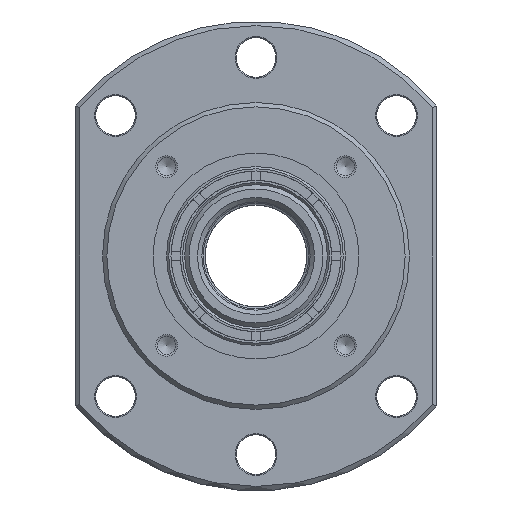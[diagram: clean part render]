
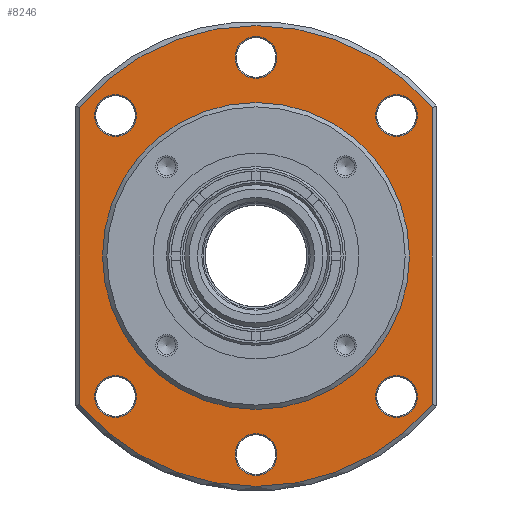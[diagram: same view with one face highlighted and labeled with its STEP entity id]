
A CAD part, left-side view. The second image highlights one B-rep face of the part: STEP entity #8246.
In plain terms, the highlighted planar face has unit normal (-1, 0, 0).
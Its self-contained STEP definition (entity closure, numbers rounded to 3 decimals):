
#4680=EDGE_CURVE('',#11807,#11807,#11808,.T.);
#5052=EDGE_CURVE('',#10294,#12387,#12388,.T.);
#5178=EDGE_CURVE('',#12583,#12583,#12584,.T.);
#5498=EDGE_CURVE('',#11645,#13074,#13075,.T.);
#5736=EDGE_CURVE('',#10294,#13074,#13451,.T.);
#6172=EDGE_CURVE('',#11645,#12387,#14100,.T.);
#7116=EDGE_CURVE('',#15488,#15488,#15489,.T.);
#7228=EDGE_CURVE('',#15667,#15667,#15668,.T.);
#8214=EDGE_CURVE('',#17076,#17076,#17077,.T.);
#8232=EDGE_CURVE('',#17101,#17101,#17102,.T.);
#8246=ADVANCED_FACE('',(#17118,#17119,#17120,#17121,#17122,#17123,#17124,#17125),#17126,.T.);
#8294=EDGE_CURVE('',#17187,#17187,#17188,.T.);
#10294=VERTEX_POINT('',#20305);
#11645=VERTEX_POINT('',#22743);
#11807=VERTEX_POINT('',#23045);
#11808=CIRCLE('',#23046,5.8);
#12387=VERTEX_POINT('',#24007);
#12388=CIRCLE('',#24008,63.8);
#12583=VERTEX_POINT('',#24408);
#12584=CIRCLE('',#24409,5.8);
#13074=VERTEX_POINT('',#25219);
#13075=CIRCLE('',#25220,63.8);
#13451=LINE('',#25888,#25889);
#14100=LINE('',#27098,#27099);
#15488=VERTEX_POINT('',#29573);
#15489=CIRCLE('',#29574,5.8);
#15667=VERTEX_POINT('',#29871);
#15668=CIRCLE('',#29872,5.8);
#17076=VERTEX_POINT('',#32253);
#17077=CIRCLE('',#32254,5.8);
#17101=VERTEX_POINT('',#32286);
#17102=CIRCLE('',#32287,41.9);
#17118=FACE_OUTER_BOUND('',#32317,.T.);
#17119=FACE_BOUND('',#32318,.T.);
#17120=FACE_BOUND('',#32319,.T.);
#17121=FACE_BOUND('',#32320,.T.);
#17122=FACE_BOUND('',#32321,.T.);
#17123=FACE_BOUND('',#32322,.T.);
#17124=FACE_BOUND('',#32323,.T.);
#17125=FACE_BOUND('',#32324,.T.);
#17126=PLANE('',#32325);
#17187=VERTEX_POINT('',#32446);
#17188=CIRCLE('',#32447,5.8);
#20305=CARTESIAN_POINT('',(33.0,48.8,41.097));
#22743=CARTESIAN_POINT('',(33.0,-48.8,-41.097));
#23045=CARTESIAN_POINT('',(33.0,-42.992,-42.992));
#23046=AXIS2_PLACEMENT_3D('',#37204,#37205,#37206);
#24007=CARTESIAN_POINT('',(33.0,-48.8,41.097));
#24008=AXIS2_PLACEMENT_3D('',#37891,#37892,#37893);
#24408=CARTESIAN_POINT('',(33.0,-34.79,34.79));
#24409=AXIS2_PLACEMENT_3D('',#38122,#38123,#38124);
#25219=CARTESIAN_POINT('',(33.0,48.8,-41.097));
#25220=AXIS2_PLACEMENT_3D('',#38803,#38804,#38805);
#25888=CARTESIAN_POINT('',(33.0,48.8,58.925));
#25889=VECTOR('',#39290,1.0);
#27098=CARTESIAN_POINT('',(33.0,-48.8,-6.075));
#27099=VECTOR('',#40137,1.0);
#29573=CARTESIAN_POINT('',(33.0,0.0,49.2));
#29574=AXIS2_PLACEMENT_3D('',#41887,#41888,#41889);
#29871=CARTESIAN_POINT('',(33.0,42.992,-42.992));
#29872=AXIS2_PLACEMENT_3D('',#42105,#42106,#42107);
#32253=CARTESIAN_POINT('',(33.0,34.79,34.79));
#32254=AXIS2_PLACEMENT_3D('',#43919,#43920,#43921);
#32286=CARTESIAN_POINT('',(33.0,0.0,41.9));
#32287=AXIS2_PLACEMENT_3D('',#43963,#43964,#43965);
#32317=EDGE_LOOP('',(#43977,#43978,#43979,#43980));
#32318=EDGE_LOOP('',(#43981));
#32319=EDGE_LOOP('',(#43982));
#32320=EDGE_LOOP('',(#43983));
#32321=EDGE_LOOP('',(#43984));
#32322=EDGE_LOOP('',(#43985));
#32323=EDGE_LOOP('',(#43986));
#32324=EDGE_LOOP('',(#43987));
#32325=AXIS2_PLACEMENT_3D('',#43988,#43989,#43990);
#32446=CARTESIAN_POINT('',(33.0,0.0,-60.8));
#32447=AXIS2_PLACEMENT_3D('',#44064,#44065,#44066);
#37204=CARTESIAN_POINT('',(33.0,-38.891,-38.891));
#37205=DIRECTION('',(1.0,0.0,0.0));
#37206=DIRECTION('',(0.0,-0.707,-0.707));
#37891=CARTESIAN_POINT('',(33.0,0.0,0.0));
#37892=DIRECTION('',(1.0,0.0,-0.0));
#37893=DIRECTION('',(0.0,0.0,1.0));
#38122=CARTESIAN_POINT('',(33.0,-38.891,38.891));
#38123=DIRECTION('',(1.0,0.0,0.0));
#38124=DIRECTION('',(0.0,0.707,-0.707));
#38803=CARTESIAN_POINT('',(33.0,0.0,0.0));
#38804=DIRECTION('',(1.0,0.0,-0.0));
#38805=DIRECTION('',(0.0,0.0,1.0));
#39290=DIRECTION('',(0.0,0.0,-1.0));
#40137=DIRECTION('',(0.0,0.0,1.0));
#41887=CARTESIAN_POINT('',(33.0,0.0,55.0));
#41888=DIRECTION('',(1.0,0.0,0.0));
#41889=DIRECTION('',(0.0,0.0,-1.0));
#42105=CARTESIAN_POINT('',(33.0,38.891,-38.891));
#42106=DIRECTION('',(1.0,0.0,0.0));
#42107=DIRECTION('',(0.0,0.707,-0.707));
#43919=CARTESIAN_POINT('',(33.0,38.891,38.891));
#43920=DIRECTION('',(1.0,0.0,0.0));
#43921=DIRECTION('',(0.0,-0.707,-0.707));
#43963=CARTESIAN_POINT('',(33.0,0.0,0.0));
#43964=DIRECTION('',(1.0,0.0,-0.0));
#43965=DIRECTION('',(0.0,0.0,1.0));
#43977=ORIENTED_EDGE('',*,*,#5736,.T.);
#43978=ORIENTED_EDGE('',*,*,#5498,.F.);
#43979=ORIENTED_EDGE('',*,*,#6172,.T.);
#43980=ORIENTED_EDGE('',*,*,#5052,.F.);
#43981=ORIENTED_EDGE('',*,*,#7228,.T.);
#43982=ORIENTED_EDGE('',*,*,#8294,.T.);
#43983=ORIENTED_EDGE('',*,*,#4680,.T.);
#43984=ORIENTED_EDGE('',*,*,#8214,.T.);
#43985=ORIENTED_EDGE('',*,*,#7116,.T.);
#43986=ORIENTED_EDGE('',*,*,#5178,.T.);
#43987=ORIENTED_EDGE('',*,*,#8232,.T.);
#43988=CARTESIAN_POINT('',(33.0,0.0,52.85));
#43989=DIRECTION('',(-1.0,0.0,0.0));
#43990=DIRECTION('',(0.0,0.0,1.0));
#44064=CARTESIAN_POINT('',(33.0,0.0,-55.0));
#44065=DIRECTION('',(1.0,0.0,0.0));
#44066=DIRECTION('',(0.0,0.0,-1.0));
